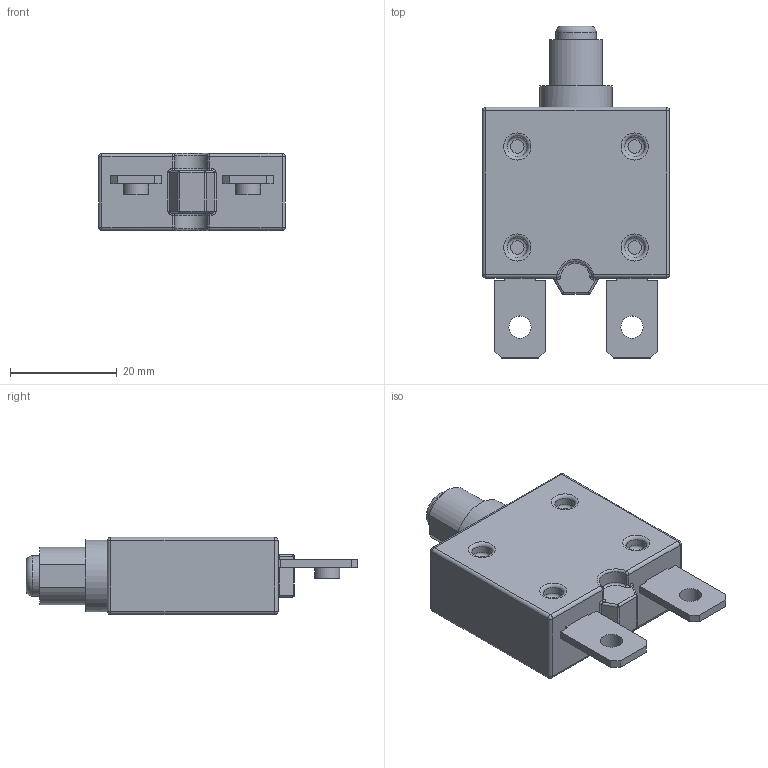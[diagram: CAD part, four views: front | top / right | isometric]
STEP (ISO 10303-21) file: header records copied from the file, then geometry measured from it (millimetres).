
FILE_DESCRIPTION(/* description */ (''),/* implementation_level */ '2;1');
FILE_NAME(/* name */ 'C:\Users\Hani\Desktop\work\CBW68\CBW68.stp',/* time_stamp */ '2021-10-02T12:48:17-07:00',/* author */ ('Hani'),/* organization */ (''),/* preprocessor_version */ 'ST-DEVELOPER v17',/* originating_system */ 'Autodesk Inventor 2019',/* authorisation */ '');
FILE_SCHEMA (('AUTOMOTIVE_DESIGN { 1 0 10303 214 3 1 1 }'));
Length unit declared in the file: inch
Products named in the file (5): CBW58-BL-40A-5X; CBW57-PS-20A-WP; botton; TER; TER_MIR1
Assembly tree (4 placements, depth 2):
  CBW58-BL-40A-5X
    CBW57-PS-20A-WP
    botton
    TER
    TER_MIR1
Bounding box: 35.05 x 62.23 x 14.5 mm (x, y, z)
Volume: 17890.9 mm3; surface area: 5836.4 mm2
Topology: 4 solids, 4 shells, 278 faces, 675 edges, 427 vertices
Faces by surface type: plane 121, bspline 75, cylinder 49, torus 21, sphere 12
Full cylindrical faces by diameter (mm): 3.81 x6, 4.166 x2, 4.699 x2, 7.569 x1, 7.62 x1, 13.5 x1
Entity records: 9043 total; most frequent: CARTESIAN_POINT 2713, ORIENTED_EDGE 1350, DIRECTION 1101, EDGE_CURVE 675, VERTEX_POINT 427, LINE 385, VECTOR 385, AXIS2_PLACEMENT_3D 358
